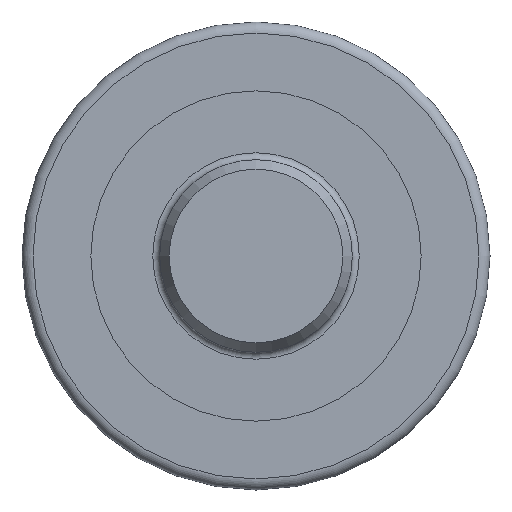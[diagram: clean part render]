
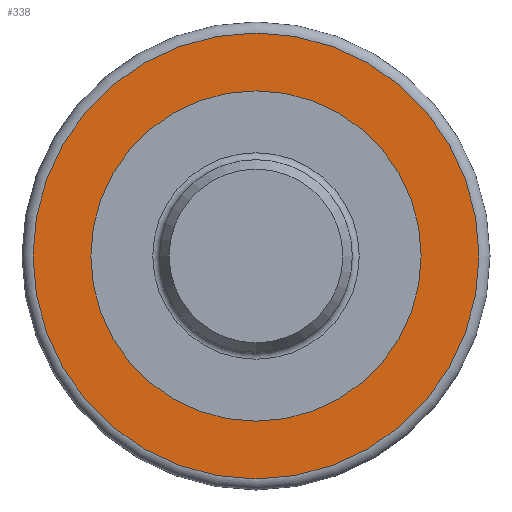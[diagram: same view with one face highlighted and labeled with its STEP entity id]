
A CAD part, left-side view. The second image highlights one B-rep face of the part: STEP entity #338.
In plain terms, the highlighted planar face has unit normal (-1, 0, 0).
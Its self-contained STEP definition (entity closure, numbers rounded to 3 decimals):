
#311=CARTESIAN_POINT('',(48.215,111.54,0.));
#312=DIRECTION('',(-1.0,0.0,0.0));
#313=DIRECTION('',(0.0,0.0,1.0));
#314=AXIS2_PLACEMENT_3D('',#311,#312,#313);
#315=PLANE('',#314);
#316=CARTESIAN_POINT('',(48.215,128.54,0.));
#317=VERTEX_POINT('',#316);
#318=CARTESIAN_POINT('',(48.215,-33.46,0.));
#319=DIRECTION('',(1.0,0.0,0.0));
#320=DIRECTION('',(0.0,-1.0,0.0));
#321=AXIS2_PLACEMENT_3D('',#318,#319,#320);
#322=CIRCLE('',#321,162.);
#323=EDGE_CURVE('',#317,#317,#322,.T.);
#324=ORIENTED_EDGE('',*,*,#323,.F.);
#325=EDGE_LOOP('',(#324));
#326=FACE_OUTER_BOUND('',#325,.T.);
#327=CARTESIAN_POINT('',(48.215,-153.46,0.));
#328=VERTEX_POINT('',#327);
#329=CARTESIAN_POINT('',(48.215,-33.46,0.0));
#330=DIRECTION('',(-1.0,0.0,0.0));
#331=DIRECTION('',(0.0,1.0,0.0));
#332=AXIS2_PLACEMENT_3D('',#329,#330,#331);
#333=CIRCLE('',#332,120.);
#334=EDGE_CURVE('',#328,#328,#333,.T.);
#335=ORIENTED_EDGE('',*,*,#334,.F.);
#336=EDGE_LOOP('',(#335));
#337=FACE_BOUND('',#336,.T.);
#338=ADVANCED_FACE('',(#326,#337),#315,.T.);
